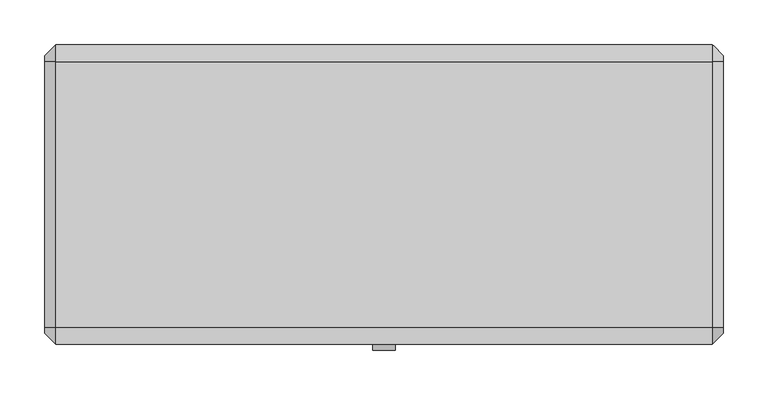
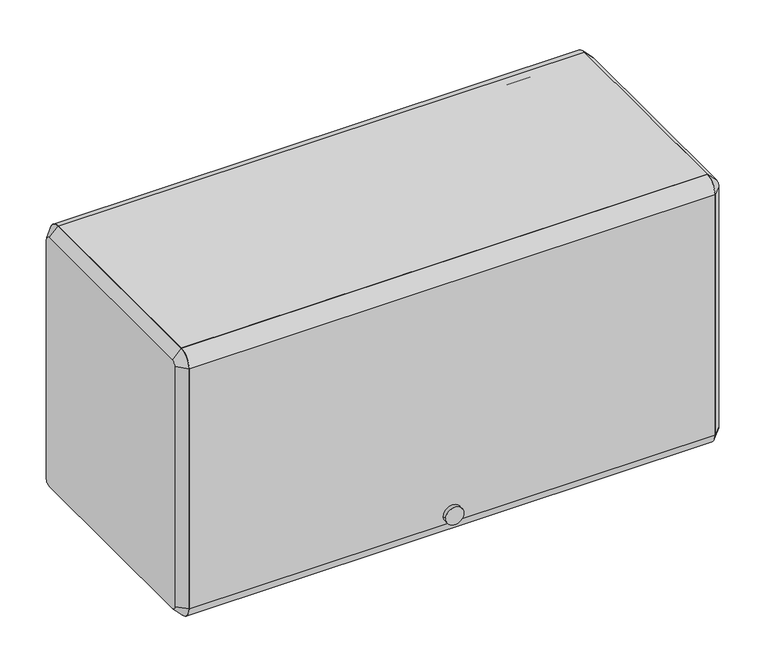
"""IFC4 building model written with IfcOpenShell, lengths in millimetres: furniture geometry."""

from ifc_helpers import new_model, si_unit, point, frame, frame_2d, origin, place, context, project, spatial, polyline, circle_curve, trimmed, segment, composite_curve, outline, extrude, source, transform, mapped, element, save
from ifc_brep_helpers import plane_surface, revolved_surface, advanced_brep


def furniture_f00700a8(model_context):
    return source(origin(), model_context, "Body", "SolidModel", [
        extrude(outline(composite_curve([segment(polyline([(-136.525, 2222.5), (-136.525, 2235.2), (161.925, 2235.2)]), True, "CONTINUOUS"), segment(trimmed(circle_curve(frame_2d((161.925, 2216.15)), 19.05), [point((161.925, 2235.2))], [point((180.975, 2216.15))], False, "CARTESIAN"), True, "CONTINUOUS"), segment(polyline([(180.975, 2216.15), (168.275, 2216.15)]), True, "CONTINUOUS"), segment(trimmed(circle_curve(frame_2d((161.925, 2216.15)), 6.35), [point((168.275, 2216.15))], [point((161.925, 2222.5))], True, "CARTESIAN"), True, "CONTINUOUS"), segment(polyline([(161.925, 2222.5), (-136.525, 2222.5)]), True, "CONTINUOUS")], self_intersect=False)), frame((-368.3, 0.0, 0.0), z_axis=(1.0, 0.0, 0.0), x_axis=(0.0, 1.0, 0.0)), (0.0, 0.0, 1.0), 736.6),
        extrude(outline(composite_curve([segment(trimmed(circle_curve(frame_2d((-136.525, 2216.15)), 19.05), [point((-155.575, 2216.15))], [point((-136.525, 2235.2))], False, "CARTESIAN"), True, "CONTINUOUS"), segment(polyline([(-136.525, 2235.2), (-136.525, 2222.5)]), True, "CONTINUOUS"), segment(trimmed(circle_curve(frame_2d((-136.525, 2216.15)), 6.35), [point((-136.525, 2222.5))], [point((-142.875, 2216.15))], True, "CARTESIAN"), True, "CONTINUOUS"), segment(polyline([(-142.875, 2216.15), (-142.875, 1860.55)]), True, "CONTINUOUS"), segment(trimmed(circle_curve(frame_2d((-136.525, 1860.55)), 6.35), [point((-142.875, 1860.55))], [point((-136.525, 1854.2))], True, "CARTESIAN"), True, "CONTINUOUS"), segment(polyline([(-136.525, 1854.2), (-136.525, 1841.5)]), True, "CONTINUOUS"), segment(trimmed(circle_curve(frame_2d((-136.525, 1860.55)), 19.05), [point((-136.525, 1841.5))], [point((-155.575, 1860.55))], False, "CARTESIAN"), True, "CONTINUOUS"), segment(polyline([(-155.575, 1860.55), (-155.575, 2216.15)]), True, "CONTINUOUS")], self_intersect=False)), frame((-368.3, 0.0, 0.0), z_axis=(1.0, 0.0, 0.0), x_axis=(0.0, 1.0, 0.0)), (0.0, 0.0, 1.0), 736.6),
        extrude(outline(composite_curve([segment(trimmed(circle_curve(frame_2d((1873.2118906, 0.0201199)), 12.7253951), [point((1873.2118906, 12.745515))], [point((1873.2118906, -12.7052752))], False, "CARTESIAN"), True, "CONTINUOUS"), segment(trimmed(circle_curve(frame_2d((1873.2118906, 0.0201199)), 12.7253951), [point((1873.2118906, -12.7052752))], [point((1873.2118906, 12.745515))], False, "CARTESIAN"), True, "CONTINUOUS")], self_intersect=False)), frame((0.0, -161.925, 0.0), z_axis=(0.0, 1.0, 0.0), x_axis=(0.0, 0.0, 1.0)), (0.0, 0.0, 1.0), 6.35),
        extrude(outline(polyline([(-136.525, 1879.6), (161.925, 1879.6), (161.925, 1917.7), (174.625, 1917.7), (174.625, 1914.525), (165.1, 1914.525), (165.1, 1876.425), (-133.35, 1876.425), (-133.35, 1857.375), (-136.525, 1857.375), (-136.525, 1879.6)])), frame((-368.3, 0.0, 0.0), z_axis=(1.0, 0.0, 0.0), x_axis=(0.0, 1.0, 0.0)), (0.0, 0.0, 1.0), 736.6),
        advanced_brep(
        [(381.0, 161.925, 2222.5), (381.0, -136.525, 2222.5), (381.0, -142.875, 2216.15), (381.0, -142.875, 1860.55), (381.0, -136.525, 1854.2), (381.0, 161.925, 1854.2), (381.0, 168.275, 1860.55), (381.0, 168.275, 2216.15), (368.3, 161.925, 2235.2), (368.3, 180.975, 2216.15), (368.3, 180.975, 1860.55), (368.3, 161.925, 1841.5), (368.3, -136.525, 1841.5), (368.3, -155.575, 1860.55), (368.3, -155.575, 2216.15), (368.3, -136.525, 2235.2)],
        [
            (0, 1),
            (1, 2, circle_curve(frame((381.0, -136.525, 2216.15), z_axis=(1.0, 6.490807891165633e-12, -6.586731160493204e-12), x_axis=(6.586694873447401e-12, 0.0, 1.0)), 6.35)),
            (2, 3),
            (3, 4, circle_curve(frame((381.0, -136.525, 1860.55), z_axis=(1.0, 3.3733016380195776e-12, 3.3892888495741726e-12), x_axis=(3.373343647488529e-12, -1.0, 0.0)), 6.35)),
            (4, 5),
            (5, 6, circle_curve(frame((381.0, 161.925, 1860.55), z_axis=(1.0, 3.378630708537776e-12, -3.3892888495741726e-12), x_axis=(-3.38935859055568e-12, 0.0, -1.0)), 6.35)),
            (6, 7),
            (7, 0, circle_curve(frame((381.0, 161.925, 2216.15), z_axis=(1.0, 6.482814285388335e-12, 6.3948846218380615e-12), x_axis=(-6.482754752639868e-12, 1.0, 0.0)), 6.35)),
            (8, 9, circle_curve(frame((368.3, 161.925, 2216.15), z_axis=(-1.0, -6.482814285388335e-12, -6.3948846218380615e-12), x_axis=(-6.482754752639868e-12, 1.0, 0.0)), 19.05)),
            (9, 10),
            (10, 11, circle_curve(frame((368.3, 161.925, 1860.55), z_axis=(-1.0, -3.378630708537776e-12, 3.3892888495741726e-12), x_axis=(-3.38935859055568e-12, 0.0, -1.0)), 19.05)),
            (11, 12),
            (12, 13, circle_curve(frame((368.3, -136.525, 1860.55), z_axis=(-1.0, -3.3733016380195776e-12, -3.3892888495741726e-12), x_axis=(3.373343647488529e-12, -1.0, 0.0)), 19.05)),
            (13, 14),
            (14, 15, circle_curve(frame((368.3, -136.525, 2216.15), z_axis=(-1.0, -6.490807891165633e-12, 6.586731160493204e-12), x_axis=(6.586694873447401e-12, 0.0, 1.0)), 19.05)),
            (15, 8),
            (15, 1),
            (0, 8),
            (14, 2),
            (13, 3),
            (12, 4),
            (11, 5),
            (10, 6),
            (9, 7),
        ],
        [
            plane_surface(frame((381.0, 12.7, 2038.35), z_axis=(1.0, 0.0, 0.0), x_axis=(0.0, -1.0, 0.0))),
            plane_surface(frame((368.3, 12.7, 2038.35), z_axis=(-1.0, 0.0, 0.0), x_axis=(0.0, -1.0, 0.0))),
            plane_surface(frame((368.3, 12.7, 2235.2), z_axis=(0.707106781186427, 0.0, 0.7071067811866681), x_axis=(0.0, -1.0, 0.0))),
            revolved_surface(polyline([(381.00000000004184, -136.525, 2222.499999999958), (368.3, -136.525, 2235.2)]), (387.35, -136.525, 2216.15), (-1.0, -6.490807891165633e-12, 6.586731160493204e-12)),
            plane_surface(frame((368.3, -155.575, 2038.35), z_axis=(0.7071067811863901, -0.7071067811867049, 0.0), x_axis=(0.0, 0.0, -1.0))),
            revolved_surface(polyline([(381.00000000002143, -142.8749999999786, 1860.55), (368.2999999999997, -155.5750000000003, 1860.55)]), (387.35, -136.525, 1860.55), (-1.0, -3.3733016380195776e-12, -3.3892888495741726e-12)),
            plane_surface(frame((368.3, 12.7, 1841.5), z_axis=(0.7071067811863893, 0.0, -0.7071067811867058), x_axis=(0.0, 1.0, 0.0))),
            revolved_surface(polyline([(381.0, 161.925, 1854.2), (368.29999999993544, 161.925, 1841.4999999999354)]), (387.35, 161.925, 1860.55), (-1.0, -3.378630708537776e-12, 3.3892888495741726e-12)),
            plane_surface(frame((368.3, 180.975, 2038.35), z_axis=(0.7071067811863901, 0.7071067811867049, 0.0), x_axis=(0.0, 0.0, 1.0))),
            revolved_surface(polyline([(381.0, 168.27500000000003, 2216.15), (368.2999999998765, 180.9750000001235, 2216.15)]), (387.35, 161.925, 2216.15), (-1.0, -6.482814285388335e-12, -6.3948846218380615e-12)),
        ],
        [
            (0, [[1, 2, 3, 4, 5, 6, 7, 8]]),
            (1, [[9, 10, 11, 12, 13, 14, 15, 16]]),
            (2, [[-16, 17, -1, 18]]),
            (3, [[-15, 19, -2, -17]]),
            (4, [[-14, 20, -3, -19]]),
            (5, [[-13, 21, -4, -20]]),
            (6, [[-12, 22, -5, -21]]),
            (7, [[-11, 23, -6, -22]]),
            (8, [[-10, 24, -7, -23]]),
            (9, [[-9, -18, -8, -24]]),
        ],
    ),
        advanced_brep(
        [(-381.0, -136.525, 2222.5), (-381.0, 161.925, 2222.5), (-381.0, 168.275, 2216.15), (-381.0, 168.275, 1860.55), (-381.0, 161.925, 1854.2), (-381.0, -136.525, 1854.2), (-381.0, -142.875, 1860.55), (-381.0, -142.875, 2216.15), (-368.3, -136.525, 2235.2), (-368.3, -155.575, 2216.15), (-368.3, -155.575, 1860.55), (-368.3, -136.525, 1841.5), (-368.3, 161.925, 1841.5), (-368.3, 180.975, 1860.55), (-368.3, 180.975, 2216.15), (-368.3, 161.925, 2235.2)],
        [
            (0, 1),
            (1, 2, circle_curve(frame((-381.0, 161.925, 2216.15), z_axis=(-1.0, 3.3653080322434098e-12, 3.431921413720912e-12), x_axis=(3.431908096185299e-12, 0.0, 1.0)), 6.35)),
            (2, 3),
            (3, 4, circle_curve(frame((-381.0, 161.925, 1860.55), z_axis=(-1.0, 0.0, 0.0), x_axis=(0.0, 1.0, 0.0)), 6.35)),
            (4, 5),
            (5, 6, circle_curve(frame((-381.0, -136.525, 1860.55), z_axis=(-1.0, 0.0, 0.0), x_axis=(0.0, 0.0, -1.0)), 6.35)),
            (6, 7),
            (7, 0, circle_curve(frame((-381.0, -136.525, 2216.15), z_axis=(-1.0, 3.3812952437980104e-12, -3.3253400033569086e-12), x_axis=(-3.381351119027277e-12, -1.0, 0.0)), 6.35)),
            (8, 9, circle_curve(frame((-368.3, -136.525, 2216.15), z_axis=(1.0, -3.3812952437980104e-12, 3.3253400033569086e-12), x_axis=(-3.381351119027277e-12, -1.0, 0.0)), 19.05)),
            (9, 10),
            (10, 11, circle_curve(frame((-368.3, -136.525, 1860.55), z_axis=(1.0, 0.0, 0.0), x_axis=(0.0, 0.0, -1.0)), 19.05)),
            (11, 12),
            (12, 13, circle_curve(frame((-368.3, 161.925, 1860.55), z_axis=(1.0, 0.0, 0.0), x_axis=(0.0, 1.0, 0.0)), 19.05)),
            (13, 14),
            (14, 15, circle_curve(frame((-368.3, 161.925, 2216.15), z_axis=(1.0, -3.3653080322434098e-12, -3.431921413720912e-12), x_axis=(3.431908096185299e-12, 0.0, 1.0)), 19.05)),
            (15, 8),
            (15, 1),
            (0, 8),
            (14, 2),
            (13, 3),
            (12, 4),
            (11, 5),
            (10, 6),
            (9, 7),
        ],
        [
            plane_surface(frame((-381.0, 12.7, 2038.35), z_axis=(-1.0, 0.0, 0.0), x_axis=(0.0, -1.0, 0.0))),
            plane_surface(frame((-368.3, 12.7, 2038.35), z_axis=(1.0, 0.0, 0.0), x_axis=(0.0, -1.0, 0.0))),
            plane_surface(frame((-368.3, 12.7, 2235.2), z_axis=(-0.7071067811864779, 0.0, 0.7071067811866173), x_axis=(0.0, 1.0, 0.0))),
            revolved_surface(polyline([(-381.0, 161.925, 2222.5), (-368.29999999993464, 161.925, 2235.2000000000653)]), (-387.35, 161.925, 2216.15), (1.0, -3.3653080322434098e-12, -3.431921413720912e-12)),
            plane_surface(frame((-368.3, 180.975, 2038.35), z_axis=(-0.7071067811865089, 0.7071067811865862, 0.0), x_axis=(0.0, 0.0, -1.0))),
            revolved_surface(polyline([(-381.0, 168.27500000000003, 1860.55), (-368.3, 180.975, 1860.55)]), (-387.35, 161.925, 1860.55), (1.0, 0.0, 0.0)),
            plane_surface(frame((-368.3, 12.7, 1841.5), z_axis=(-0.7071067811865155, 0.0, -0.7071067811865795), x_axis=(0.0, -1.0, 0.0))),
            revolved_surface(polyline([(-381.0, -136.525, 1854.2), (-368.3, -136.525, 1841.5)]), (-387.35, -136.525, 1860.55), (1.0, 0.0, 0.0)),
            plane_surface(frame((-368.3, -155.575, 2038.35), z_axis=(-0.7071067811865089, -0.7071067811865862, 0.0), x_axis=(0.0, 0.0, 1.0))),
            revolved_surface(polyline([(-381.0000000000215, -142.87499999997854, 2216.15), (-368.3, -155.575, 2216.15)]), (-387.35, -136.525, 2216.15), (1.0, -3.3812952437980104e-12, 3.3253400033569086e-12)),
        ],
        [
            (0, [[1, 2, 3, 4, 5, 6, 7, 8]]),
            (1, [[9, 10, 11, 12, 13, 14, 15, 16]]),
            (2, [[-16, 17, -1, 18]]),
            (3, [[-15, 19, -2, -17]]),
            (4, [[-14, 20, -3, -19]]),
            (5, [[-13, 21, -4, -20]]),
            (6, [[-12, 22, -5, -21]]),
            (7, [[-11, 23, -6, -22]]),
            (8, [[-10, 24, -7, -23]]),
            (9, [[-9, -18, -8, -24]]),
        ],
    ),
    ])


if __name__ == "__main__":
    model = new_model("IFC4")
    model_context = context("Model", 3, world=origin())
    ifc_project = project(units=[si_unit("LENGTHUNIT", "METRE", prefix="MILLI")], contexts=[model_context])
    site = spatial("IfcSite", under=ifc_project)
    building = spatial("IfcBuilding", under=site)
    placement = place(None, origin())
    furniture_shape = furniture_f00700a8(model_context)
    element("IfcFurniture", 1, ObjectType="HermanMiller_ActionOffice_A3352_B-StyleFlipperDoorUnit : 15 1/2\"H x 13\"D x 30\"W", at=placement, inside=building, context=model_context, shape_type="MappedRepresentation", body=[
        mapped(furniture_shape, transform((0.0, 0.0, 0.0), x_axis=(1.0, 0.0, 0.0), y_axis=(0.0, 1.0, 0.0), z_axis=(0.0, 0.0, 1.0))),
    ])
    save(model, "model.ifc")
